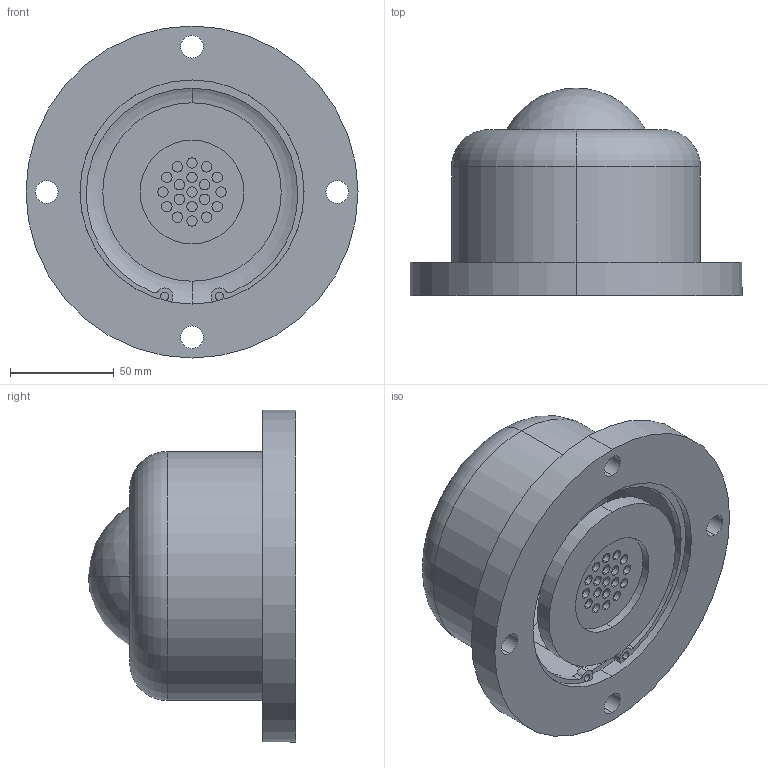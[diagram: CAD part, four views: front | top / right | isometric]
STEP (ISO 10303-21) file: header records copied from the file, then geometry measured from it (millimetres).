
FILE_DESCRIPTION (( 'STEP AP203' ), '1' );
FILE_NAME ('PV900FH.STEP', '2015-12-09T09:52:37', ( '' ), ( '' ), 'SwSTEP 2.0', 'SolidWorks 2013', '' );
FILE_SCHEMA (( 'CONFIG_CONTROL_DESIGN' ));
Length unit declared in the file: millimetre
Products named in the file (1): PV900FH
Bounding box: 160 x 100 x 160 mm (x, y, z)
Volume: 1022533.2 mm3; surface area: 81062.8 mm2
Topology: 1 solids, 1 shells, 106 faces, 230 edges, 153 vertices
Faces by surface type: cylinder 72, plane 30, torus 2, sphere 2
Entity records: 3071 total; most frequent: DIRECTION 596, CARTESIAN_POINT 490, ORIENTED_EDGE 460, AXIS2_PLACEMENT_3D 259, EDGE_CURVE 230, VERTEX_POINT 153, CIRCLE 152, EDGE_LOOP 141
